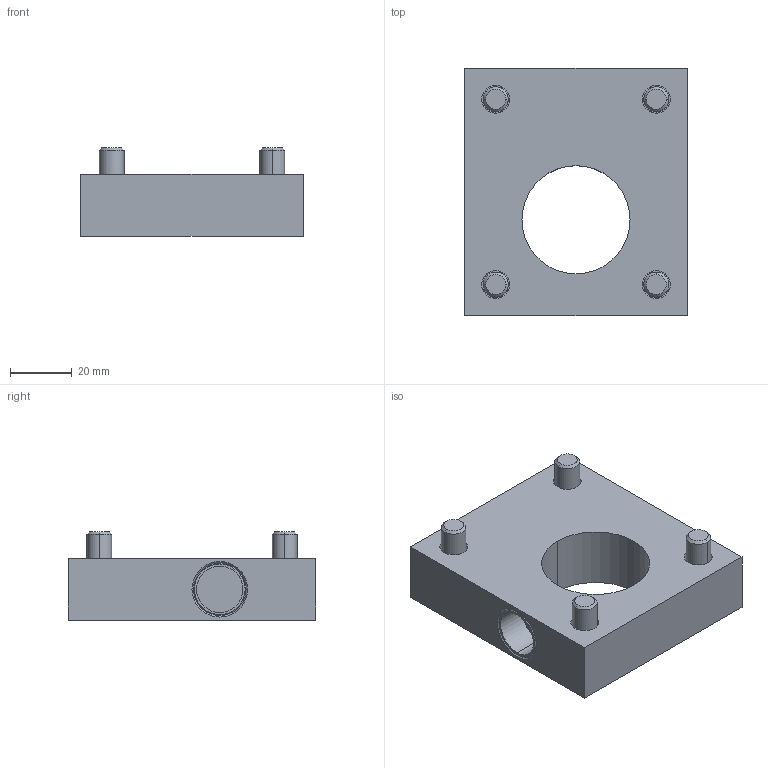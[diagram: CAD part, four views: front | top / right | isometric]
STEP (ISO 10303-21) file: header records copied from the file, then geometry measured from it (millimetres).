
FILE_DESCRIPTION (( 'STEP AP203' ), '1' );
FILE_NAME ('MJ1-KP(B2).STEP', '2024-01-16T10:33:48', ( '' ), ( '' ), 'SwSTEP 2.0', 'SolidWorks 2022', '' );
FILE_SCHEMA (( 'CONFIG_CONTROL_DESIGN' ));
Length unit declared in the file: millimetre
Products named in the file (1): MJ1-KP(B2)
Bounding box: 72 x 80 x 28.6 mm (x, y, z)
Volume: 91043.2 mm3; surface area: 28123.6 mm2
Topology: 7 solids, 7 shells, 142 faces, 334 edges, 212 vertices
Faces by surface type: plane 52, cylinder 46, cone 28, torus 16
Entity records: 4123 total; most frequent: CARTESIAN_POINT 745, DIRECTION 740, ORIENTED_EDGE 652, EDGE_CURVE 326, AXIS2_PLACEMENT_3D 303, VERTEX_POINT 212, EDGE_LOOP 170, CIRCLE 160
